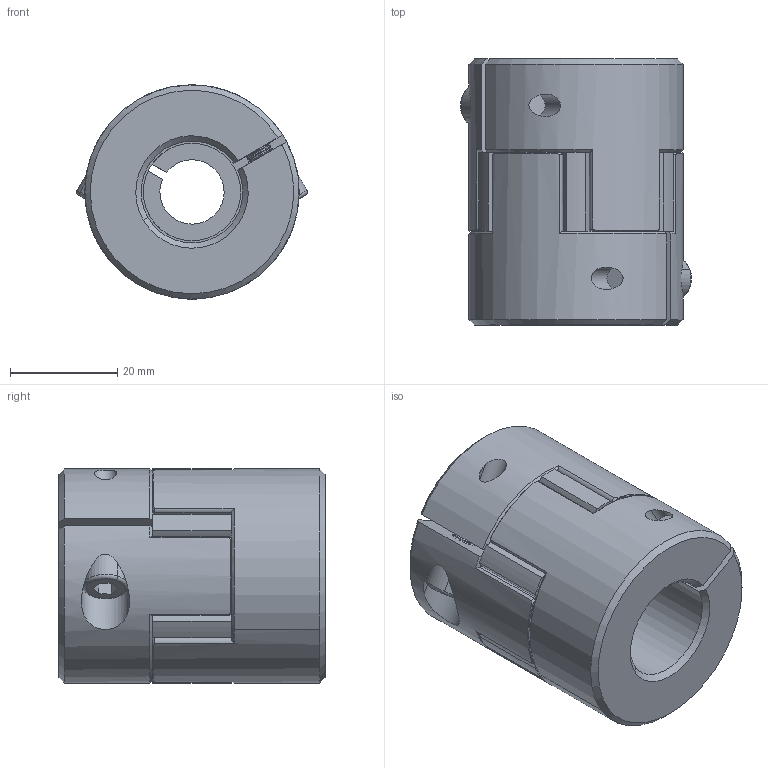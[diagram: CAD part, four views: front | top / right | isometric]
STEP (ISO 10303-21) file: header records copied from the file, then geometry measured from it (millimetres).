
FILE_DESCRIPTION (( 'STEP AP203' ), '1' );
FILE_NAME ('LF-B-D40L50-12-19.STEP', '2021-10-27T05:49:23', ( '' ), ( '' ), 'SwSTEP 2.0', 'SolidWorks 2018', '' );
FILE_SCHEMA (( 'CONFIG_CONTROL_DESIGN' ));
Length unit declared in the file: millimetre
Products named in the file (1): LF-B-D40L50-12-19
Bounding box: 43.11 x 49.7 x 40 mm (x, y, z)
Volume: 50025.9 mm3; surface area: 14631.1 mm2
Topology: 1 solids, 7 shells, 470 faces, 1113 edges, 660 vertices
Faces by surface type: cone 170, cylinder 169, plane 127, torus 4
Entity records: 13932 total; most frequent: CARTESIAN_POINT 2888, DIRECTION 2501, ORIENTED_EDGE 2218, EDGE_CURVE 1109, AXIS2_PLACEMENT_3D 1037, VERTEX_POINT 660, CIRCLE 566, EDGE_LOOP 487
